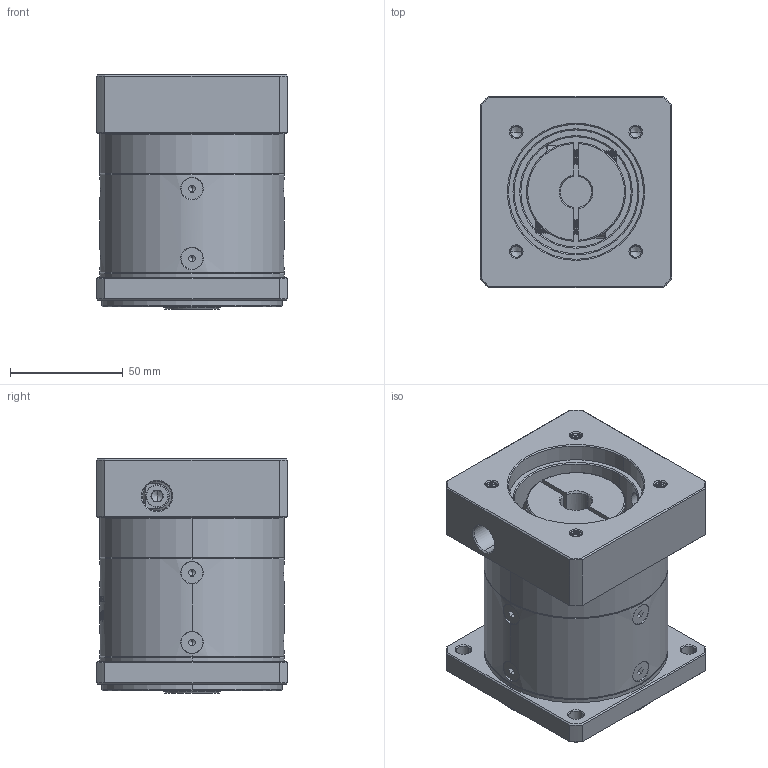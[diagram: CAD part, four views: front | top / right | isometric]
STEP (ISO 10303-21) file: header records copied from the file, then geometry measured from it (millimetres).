
FILE_DESCRIPTION (( 'STEP AP214' ), '1' );
FILE_NAME ('ZF80-K15-L1-14-60-75-M6.step', '2022-09-16T05:23:19', ( '' ), ( 'Microsoft' ), 'SwSTEP 2.0', 'SolidWorks 2016', '' );
FILE_SCHEMA (( 'AUTOMOTIVE_DESIGN' ));
Length unit declared in the file: millimetre
Products named in the file (1): ZF80-K15-L1-14-60-75-M6
Bounding box: 85 x 85 x 104 mm (x, y, z)
Volume: 538985 mm3; surface area: 87106.6 mm2
Topology: 13 solids, 13 shells, 1942 faces, 5022 edges, 3173 vertices
Faces by surface type: plane 889, cylinder 385, cone 341, bspline 310, torus 17
Entity records: 101982 total; most frequent: CARTESIAN_POINT 36678, ORIENTED_EDGE 9988, DIRECTION 7939, EDGE_CURVE 4994, VERTEX_POINT 3173, LINE 2723, VECTOR 2723, AXIS2_PLACEMENT_3D 2608
